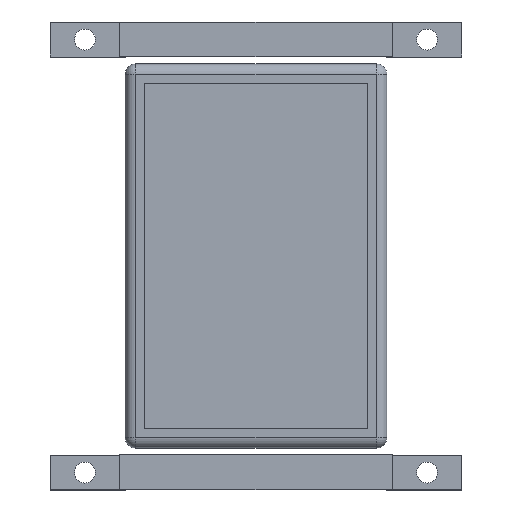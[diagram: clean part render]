
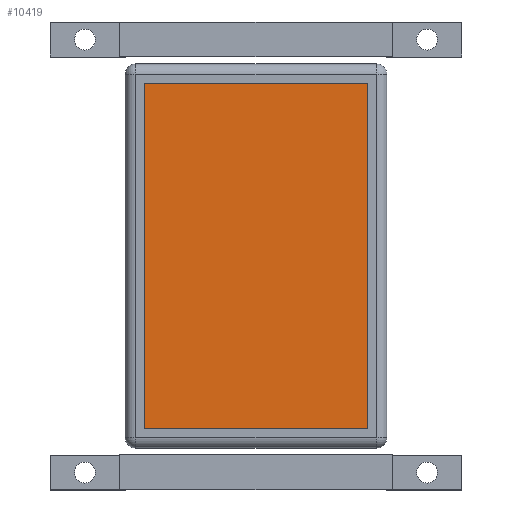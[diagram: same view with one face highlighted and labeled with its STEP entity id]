
A CAD part, top view. The second image highlights one B-rep face of the part: STEP entity #10419.
In plain terms, the highlighted planar face has unit normal (0, 0, 1).
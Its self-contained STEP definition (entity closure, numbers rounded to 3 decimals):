
#5505 = PLANE('',#5506);
#5506 = AXIS2_PLACEMENT_3D('',#5507,#5508,#5509);
#5507 = CARTESIAN_POINT('',(-32.,49.5,25.));
#5508 = DIRECTION('',(0.,-1.,0.));
#5509 = DIRECTION('',(1.,0.,0.));
#5533 = PLANE('',#5534);
#5534 = AXIS2_PLACEMENT_3D('',#5535,#5536,#5537);
#5535 = CARTESIAN_POINT('',(-32.,-49.5,25.));
#5536 = DIRECTION('',(1.,0.,0.));
#5537 = DIRECTION('',(0.,1.,0.));
#5561 = PLANE('',#5562);
#5562 = AXIS2_PLACEMENT_3D('',#5563,#5564,#5565);
#5563 = CARTESIAN_POINT('',(32.,-49.5,25.));
#5564 = DIRECTION('',(0.,1.,0.));
#5565 = DIRECTION('',(-1.,0.,0.));
#5587 = PLANE('',#5588);
#5588 = AXIS2_PLACEMENT_3D('',#5589,#5590,#5591);
#5589 = CARTESIAN_POINT('',(32.,49.5,25.));
#5590 = DIRECTION('',(-1.,0.,0.));
#5591 = DIRECTION('',(0.,-1.,0.));
#6316 = VERTEX_POINT('',#6317);
#6317 = CARTESIAN_POINT('',(-32.,49.5,24.));
#6338 = EDGE_CURVE('',#6316,#6339,#6341,.T.);
#6339 = VERTEX_POINT('',#6340);
#6340 = CARTESIAN_POINT('',(32.,49.5,24.));
#6341 = SURFACE_CURVE('',#6342,(#6346,#6353),.PCURVE_S1.);
#6342 = LINE('',#6343,#6344);
#6343 = CARTESIAN_POINT('',(-32.,49.5,24.));
#6344 = VECTOR('',#6345,1.);
#6345 = DIRECTION('',(1.,0.,0.));
#6346 = PCURVE('',#5505,#6347);
#6347 = DEFINITIONAL_REPRESENTATION('',(#6348),#6352);
#6348 = LINE('',#6349,#6350);
#6349 = CARTESIAN_POINT('',(0.,-1.));
#6350 = VECTOR('',#6351,1.);
#6351 = DIRECTION('',(1.,0.));
#6352 = ( GEOMETRIC_REPRESENTATION_CONTEXT(2) 
PARAMETRIC_REPRESENTATION_CONTEXT() REPRESENTATION_CONTEXT('2D SPACE',''
  ) );
#6353 = PCURVE('',#6354,#6359);
#6354 = PLANE('',#6355);
#6355 = AXIS2_PLACEMENT_3D('',#6356,#6357,#6358);
#6356 = CARTESIAN_POINT('',(0.,0.,24.));
#6357 = DIRECTION('',(-0.,-0.,-1.));
#6358 = DIRECTION('',(-1.,0.,0.));
#6359 = DEFINITIONAL_REPRESENTATION('',(#6360),#6364);
#6360 = LINE('',#6361,#6362);
#6361 = CARTESIAN_POINT('',(32.,49.5));
#6362 = VECTOR('',#6363,1.);
#6363 = DIRECTION('',(-1.,0.));
#6364 = ( GEOMETRIC_REPRESENTATION_CONTEXT(2) 
PARAMETRIC_REPRESENTATION_CONTEXT() REPRESENTATION_CONTEXT('2D SPACE',''
  ) );
#6392 = EDGE_CURVE('',#6339,#6393,#6395,.T.);
#6393 = VERTEX_POINT('',#6394);
#6394 = CARTESIAN_POINT('',(32.,-49.5,24.));
#6395 = SURFACE_CURVE('',#6396,(#6400,#6407),.PCURVE_S1.);
#6396 = LINE('',#6397,#6398);
#6397 = CARTESIAN_POINT('',(32.,49.5,24.));
#6398 = VECTOR('',#6399,1.);
#6399 = DIRECTION('',(0.,-1.,0.));
#6400 = PCURVE('',#5587,#6401);
#6401 = DEFINITIONAL_REPRESENTATION('',(#6402),#6406);
#6402 = LINE('',#6403,#6404);
#6403 = CARTESIAN_POINT('',(0.,-1.));
#6404 = VECTOR('',#6405,1.);
#6405 = DIRECTION('',(1.,0.));
#6406 = ( GEOMETRIC_REPRESENTATION_CONTEXT(2) 
PARAMETRIC_REPRESENTATION_CONTEXT() REPRESENTATION_CONTEXT('2D SPACE',''
  ) );
#6407 = PCURVE('',#6354,#6408);
#6408 = DEFINITIONAL_REPRESENTATION('',(#6409),#6413);
#6409 = LINE('',#6410,#6411);
#6410 = CARTESIAN_POINT('',(-32.,49.5));
#6411 = VECTOR('',#6412,1.);
#6412 = DIRECTION('',(0.,-1.));
#6413 = ( GEOMETRIC_REPRESENTATION_CONTEXT(2) 
PARAMETRIC_REPRESENTATION_CONTEXT() REPRESENTATION_CONTEXT('2D SPACE',''
  ) );
#6441 = EDGE_CURVE('',#6393,#6442,#6444,.T.);
#6442 = VERTEX_POINT('',#6443);
#6443 = CARTESIAN_POINT('',(-32.,-49.5,24.));
#6444 = SURFACE_CURVE('',#6445,(#6449,#6456),.PCURVE_S1.);
#6445 = LINE('',#6446,#6447);
#6446 = CARTESIAN_POINT('',(32.,-49.5,24.));
#6447 = VECTOR('',#6448,1.);
#6448 = DIRECTION('',(-1.,0.,0.));
#6449 = PCURVE('',#5561,#6450);
#6450 = DEFINITIONAL_REPRESENTATION('',(#6451),#6455);
#6451 = LINE('',#6452,#6453);
#6452 = CARTESIAN_POINT('',(0.,-1.));
#6453 = VECTOR('',#6454,1.);
#6454 = DIRECTION('',(1.,0.));
#6455 = ( GEOMETRIC_REPRESENTATION_CONTEXT(2) 
PARAMETRIC_REPRESENTATION_CONTEXT() REPRESENTATION_CONTEXT('2D SPACE',''
  ) );
#6456 = PCURVE('',#6354,#6457);
#6457 = DEFINITIONAL_REPRESENTATION('',(#6458),#6462);
#6458 = LINE('',#6459,#6460);
#6459 = CARTESIAN_POINT('',(-32.,-49.5));
#6460 = VECTOR('',#6461,1.);
#6461 = DIRECTION('',(1.,0.));
#6462 = ( GEOMETRIC_REPRESENTATION_CONTEXT(2) 
PARAMETRIC_REPRESENTATION_CONTEXT() REPRESENTATION_CONTEXT('2D SPACE',''
  ) );
#6490 = EDGE_CURVE('',#6442,#6316,#6491,.T.);
#6491 = SURFACE_CURVE('',#6492,(#6496,#6503),.PCURVE_S1.);
#6492 = LINE('',#6493,#6494);
#6493 = CARTESIAN_POINT('',(-32.,-49.5,24.));
#6494 = VECTOR('',#6495,1.);
#6495 = DIRECTION('',(0.,1.,0.));
#6496 = PCURVE('',#5533,#6497);
#6497 = DEFINITIONAL_REPRESENTATION('',(#6498),#6502);
#6498 = LINE('',#6499,#6500);
#6499 = CARTESIAN_POINT('',(0.,-1.));
#6500 = VECTOR('',#6501,1.);
#6501 = DIRECTION('',(1.,0.));
#6502 = ( GEOMETRIC_REPRESENTATION_CONTEXT(2) 
PARAMETRIC_REPRESENTATION_CONTEXT() REPRESENTATION_CONTEXT('2D SPACE',''
  ) );
#6503 = PCURVE('',#6354,#6504);
#6504 = DEFINITIONAL_REPRESENTATION('',(#6505),#6509);
#6505 = LINE('',#6506,#6507);
#6506 = CARTESIAN_POINT('',(32.,-49.5));
#6507 = VECTOR('',#6508,1.);
#6508 = DIRECTION('',(0.,1.));
#6509 = ( GEOMETRIC_REPRESENTATION_CONTEXT(2) 
PARAMETRIC_REPRESENTATION_CONTEXT() REPRESENTATION_CONTEXT('2D SPACE',''
  ) );
#10419 = ADVANCED_FACE('',(#10420),#6354,.F.);
#10420 = FACE_BOUND('',#10421,.F.);
#10421 = EDGE_LOOP('',(#10422,#10423,#10424,#10425));
#10422 = ORIENTED_EDGE('',*,*,#6338,.T.);
#10423 = ORIENTED_EDGE('',*,*,#6392,.T.);
#10424 = ORIENTED_EDGE('',*,*,#6441,.T.);
#10425 = ORIENTED_EDGE('',*,*,#6490,.T.);
